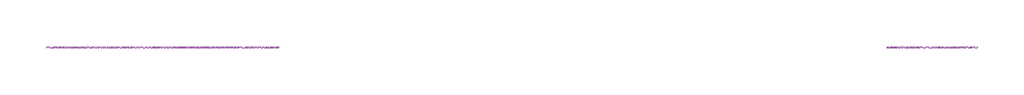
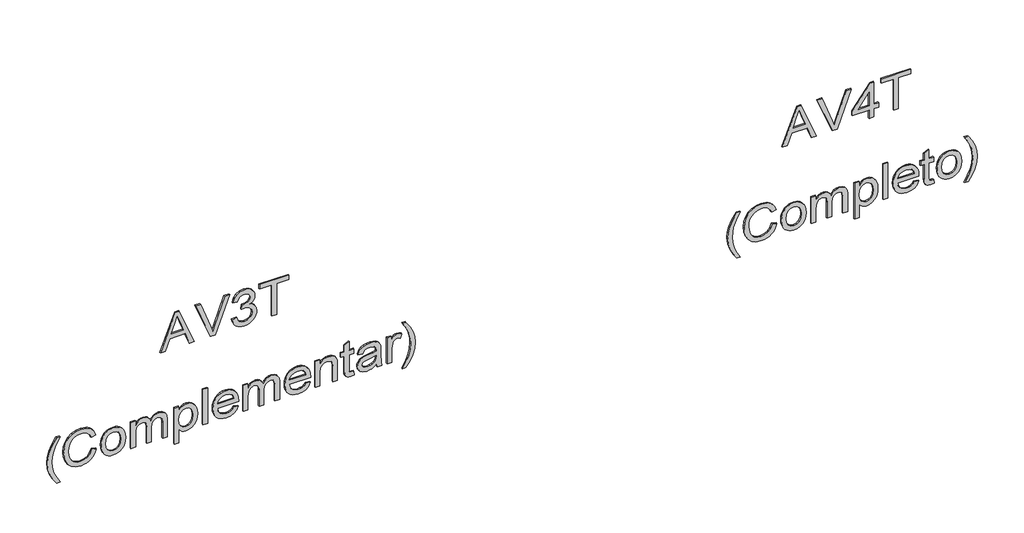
# One storey, part 10 of 14: 2 proxies.
"""IFC4 building model written with IfcOpenShell, lengths in millimetres."""

from ifc_helpers import new_model, si_unit, frame, origin, place, context, project, spatial, polyline, outline, extrude, element, save

model = new_model("IFC4")

# Units and contexts
model_context = context("Model", 3, world=origin())
ifc_project = project(units=[si_unit("LENGTHUNIT", "METRE", prefix="MILLI")], contexts=[model_context])

# Site, building, storey
site = spatial("IfcSite", under=ifc_project)
building = spatial("IfcBuilding", under=site)
storey = spatial("IfcBuildingStorey", under=building, Name="04 - Marelli - Planta Baixa - Painéis de Vidro", Elevation=36000.0)

# Proxies
placement = place(None, origin())
element("IfcBuildingElementProxy", 1, Name="300mm Arial", ObjectType="300mm Arial", at=placement, inside=storey, context=model_context, shape_type="SweptSolid", body=[
    extrude(outline(polyline([(42065.9244535, 83305.46327), (42065.9244535, 83345.2681019), (42160.1022443, 83379.7018566), (42160.1022443, 83503.8252418), (42065.9244535, 83538.3325729), (42065.9244535, 83578.1374048), (42367.293384, 83457.8399924), (42367.293384, 83425.7606824), (42065.9244535, 83305.46327)]), holes=[polyline([(42197.7733606, 83393.5342196), (42278.3395176, 83423.0383556), (42329.6222677, 83441.8003374), (42271.8647944, 83462.9167639), (42197.7733606, 83490.0664552), (42197.7733606, 83393.5342196)])]), frame((0.0, 8778.3159498, 0.0), z_axis=(0.0, 1.0, 0.0), x_axis=(0.0, 0.0, 1.0)), (0.0, 0.0, 1.0), 10.0),
    extrude(outline(polyline([(42065.9244535, 83707.4111379), (42065.9244535, 83746.333053), (42367.293384, 83861.1858119), (42367.293384, 83820.8659452), (42150.1694304, 83740.3733647), (42101.2411251, 83724.3337097), (42150.1694304, 83708.0733255), (42367.293384, 83627.8014742), (42367.293384, 83587.4816075), (42065.9244535, 83707.4111379)])), frame((0.0, 8778.3159498, 0.0), z_axis=(0.0, 1.0, 0.0), x_axis=(0.0, 0.0, 1.0)), (0.0, 0.0, 1.0), 10.0),
    extrude(outline(polyline([(42145.9755757, 83882.0815092), (42128.0827151, 83885.3326664), (42111.928097, 83891.4073178), (42097.5117213, 83900.3054636), (42084.8335881, 83912.0271036), (42074.5007025, 83926.0066195), (42067.12007, 83941.6783924), (42062.6916905, 83959.0424226), (42061.215564, 83978.09871), (42062.9446094, 83999.1829468), (42068.1317455, 84018.3633943), (42076.7769724, 84035.6400525), (42088.88029, 84051.0129214), (42103.4668111, 84063.6312738), (42119.5616484, 84072.6443827), (42137.1648019, 84078.0522481), (42156.2762716, 84079.8548698), (42183.2420218, 84076.2496263), (42205.2781533, 84065.4338956), (42221.5017493, 84047.9595009), (42231.029893, 84024.378265), (42241.9008059, 84042.3309063), (42255.9722922, 84055.2803526), (42272.4901938, 84063.1162391), (42290.7003526, 84065.7282012), (42310.2440836, 84062.9782833), (42328.7025627, 84054.7285296), (42344.7238236, 84041.2824426), (42356.9558999, 84022.9435252), (42364.709013, 84001.1925022), (42367.293384, 83977.5100988), (42362.0510656, 83944.6214484), (42346.3241103, 83917.61891), (42321.0690113, 83897.8820409), (42287.2422618, 83886.7903988), (42282.5333723, 83924.4615151), (42303.134764, 83931.1385733), (42317.8500438, 83942.9291912), (42326.6792117, 83959.0792108), (42329.6222677, 83978.834474), (42326.7068029, 83998.5529489), (42317.9604084, 84014.2982983), (42304.7626419, 84024.6173883), (42288.4930606, 84028.0570849), (42268.9585267, 84023.3114072), (42255.2365283, 84009.074374), (42247.1247303, 83988.8960465), (42244.4207976, 83966.3264861), (42244.862256, 83960.2932214), (42207.1911397, 83956.0993667), (42211.311418, 83982.5132939), (42207.4578541, 84006.2048944), (42195.8971624, 84025.3347582), (42178.4503588, 84037.9715047), (42156.9384591, 84042.1837535), (42134.2769282, 84037.9347165), (42115.5885229, 84025.1876054), (42103.0621409, 84005.2484012), (42098.8866803, 83979.4230852), (42101.9217068, 83957.4145448), (42111.0267861, 83940.5379583), (42127.0112588, 83928.1863203), (42150.6844652, 83919.7526255), (42145.9755757, 83882.0815092)])), frame((0.0, 8778.3159498, 0.0), z_axis=(0.0, 1.0, 0.0), x_axis=(0.0, 0.0, 1.0)), (0.0, 0.0, 1.0), 10.0),
    extrude(outline(polyline([(42065.9244535, 84202.2859978), (42065.9244535, 84239.9571141), (42329.6222677, 84239.9571141), (42329.6222677, 84338.8437944), (42367.293384, 84338.8437944), (42367.293384, 84103.3993175), (42329.6222677, 84103.3993175), (42329.6222677, 84202.2859978), (42065.9244535, 84202.2859978)])), frame((0.0, 8778.3159498, 0.0), z_axis=(0.0, 1.0, 0.0), x_axis=(0.0, 0.0, 1.0)), (0.0, 0.0, 1.0), 10.0),
    extrude(outline(polyline([(41249.3155348, 82469.4146478), (41249.3155348, 82497.667985), (41297.5540614, 82468.8260366), (41345.8109821, 82448.2246448), (41394.0862969, 82435.8638098), (41442.3800058, 82431.7435314), (41480.2534572, 82434.1163703), (41517.9429677, 82441.2348869), (41575.7740173, 82462.4248898), (41635.4444769, 82497.667985), (41635.4444769, 82469.4146478), (41584.934279, 82434.7233756), (41534.2033518, 82410.4063757), (41489.4137189, 82398.1559053), (41442.600735, 82394.0724151), (41389.2210575, 82399.5354628), (41337.68079, 82415.9246057), (41290.2791949, 82440.2232114), (41249.3155348, 82469.4146478)])), frame((0.0, 8778.3159498, 0.0), z_axis=(0.0, 1.0, 0.0), x_axis=(0.0, 0.0, 1.0)), (0.0, 0.0, 1.0), 10.0),
    extrude(outline(polyline([(41441.2027835, 82751.94802), (41408.9395325, 82739.761929), (41385.7261786, 82719.9790747), (41371.7098746, 82693.7766796), (41367.0377732, 82662.331966), (41370.4682728, 82635.3570187), (41380.7597717, 82610.3502401), (41397.9858461, 82589.491331), (41422.2200725, 82574.9599922), (41452.3128197, 82566.4343269), (41487.1144565, 82563.5924385), (41515.5333406, 82565.9928685), (41543.1060961, 82573.1941586), (41567.4966724, 82586.3183488), (41586.3690188, 82606.4874792), (41598.4539423, 82633.0669533), (41602.4822501, 82665.4221748), (41598.8494154, 82693.491571), (41587.9509113, 82716.3370429), (41569.1061561, 82734.1793197), (41541.6345681, 82747.2391305), (41550.6108888, 82784.9102468), (41588.4291579, 82768.2727836), (41603.751443, 82756.4706693), (41616.6824952, 82742.3463), (41626.9510013, 82726.16639), (41634.2856486, 82708.1976538), (41640.1533665, 82666.8937028), (41635.6192209, 82629.0386455), (41622.0167841, 82594.4945261), (41599.6771499, 82565.3674691), (41568.9314122, 82543.763599), (41530.9843844, 82530.3818914), (41487.0408801, 82525.9213222), (41445.3782441, 82529.8668566), (41406.4747231, 82541.7034598), (41373.3837376, 82561.0908409), (41349.1587083, 82587.6887092), (41334.3146698, 82622.3891784), (41329.3666569, 82666.0843624), (41331.0014325, 82688.50677), (41335.9057594, 82709.1265558), (41344.0796375, 82727.9437199), (41355.5230668, 82744.9582621), (41370.0796975, 82759.8344903), (41387.5931797, 82772.2367121), (41408.0635135, 82782.1649274), (41431.4906988, 82789.6191364), (41441.2027835, 82751.94802)])), frame((0.0, 8778.3159498, 0.0), z_axis=(0.0, 1.0, 0.0), x_axis=(0.0, 0.0, 1.0)), (0.0, 0.0, 1.0), 10.0),
    extrude(outline(polyline([(41444.7344506, 82827.2902527), (41418.4124939, 82828.9986047), (41395.3646869, 82834.1236607), (41375.5910296, 82842.6654208), (41359.0915221, 82854.6238849), (41346.0868936, 82869.350661), (41336.7978732, 82886.1973571), (41331.224461, 82905.1639733), (41329.3666569, 82926.2505094), (41332.7419742, 82952.8391806), (41342.8679261, 82977.2757421), (41359.1007192, 82997.8495427), (41380.7965599, 83012.849931), (41409.767267, 83022.0101927), (41447.8246594, 83025.0636133), (41472.7049786, 83023.3368672), (41494.7388108, 83018.1566288), (41513.9261561, 83009.5228982), (41530.2670145, 82997.4356754), (41543.3199275, 82982.6261259), (41552.6434368, 82965.825415), (41558.2375424, 82947.0335428), (41560.1022443, 82926.2505094), (41558.5709355, 82907.4241483), (41553.9770091, 82890.0877092), (41546.3204651, 82874.2411923), (41535.6013034, 82859.8845974), (41518.830483, 82845.6245716), (41498.095734, 82835.4388389), (41473.3970566, 82829.3273992), (41444.7344506, 82827.2902527)]), holes=[polyline([(41444.808027, 82864.961369), (41478.8830968, 82869.3207706), (41503.1173232, 82882.3989755), (41517.6026768, 82902.0806623), (41522.431128, 82926.2505094), (41517.5842827, 82950.1720361), (41503.0437468, 82969.8445258), (41479.0854319, 82983.0055042), (41445.9852494, 82987.392497), (41411.1468245, 82983.0330953), (41386.535519, 82969.9548904), (41371.9122097, 82950.3099918), (41367.0377732, 82926.2505094), (41371.8846185, 82902.0806623), (41386.4251544, 82882.3989755), (41410.7145631, 82869.3207706), (41444.808027, 82864.961369)])]), frame((0.0, 8778.3159498, 0.0), z_axis=(0.0, 1.0, 0.0), x_axis=(0.0, 0.0, 1.0)), (0.0, 0.0, 1.0), 10.0),
    extrude(outline(polyline([(41334.0755465, 83067.4436191), (41334.0755465, 83105.1147354), (41445.6909438, 83105.1147354), (41471.6082304, 83106.5494752), (41490.6461236, 83110.8536945), (41504.368122, 83118.3584872), (41514.3377241, 83129.3949471), (41520.407777, 83142.7674576), (41522.431128, 83157.2804023), (41519.3961015, 83174.359324), (41510.2910222, 83185.8648334), (41495.0974958, 83192.4039358), (41473.7971282, 83194.5836366), (41334.0755465, 83194.5836366), (41334.0755465, 83232.2547529), (41459.008272, 83232.2547529), (41487.7214617, 83235.94277), (41507.3479662, 83247.006821), (41518.6603375, 83263.6442842), (41522.431128, 83284.0525379), (41520.9596, 83295.6132296), (41516.5450161, 83305.5736346), (41509.7300021, 83313.3175506), (41501.0571841, 83318.2287752), (41469.6032735, 83321.7236542), (41334.0755465, 83321.7236542), (41334.0755465, 83359.3947705), (41485.7900813, 83359.3947705), (41518.7615051, 83355.0813541), (41541.8920855, 83342.1411049), (41555.5497046, 83321.1994223), (41560.1022443, 83292.8817058), (41557.366122, 83273.3563689), (41549.1577549, 83255.7624124), (41535.4771432, 83240.0998365), (41516.3242869, 83226.368641), (41534.7643719, 83218.1648725), (41548.5875379, 83205.6200965), (41557.2235677, 83188.8262834), (41560.1022443, 83167.8754038), (41557.27875, 83148.3224757), (41548.808267, 83131.0136279), (41535.702471, 83116.4455009), (41518.9730372, 83105.1147354), (41555.3933548, 83105.1147354), (41555.3933548, 83067.4436191), (41334.0755465, 83067.4436191)])), frame((0.0, 8778.3159498, 0.0), z_axis=(0.0, 1.0, 0.0), x_axis=(0.0, 0.0, 1.0)), (0.0, 0.0, 1.0), 10.0),
    extrude(outline(polyline([(41249.3155348, 83415.9014449), (41249.3155348, 83453.5725612), (41363.5061061, 83453.5725612), (41349.9956398, 83464.213548), (41339.0419534, 83477.4481027), (41331.785481, 83492.9083436), (41329.3666569, 83510.2263885), (41332.9810975, 83534.6445559), (41343.8244193, 83557.8671069), (41361.4459669, 83577.806311), (41385.3950848, 83592.374438), (41414.2094421, 83601.2863794), (41446.4267078, 83604.2570265), (41476.7217901, 83601.6266702), (41504.4784866, 83593.7356014), (41527.9861461, 83580.6757906), (41545.5341173, 83562.5392082), (41556.4602125, 83540.2639534), (41560.1022443, 83514.7881252), (41557.4994792, 83495.6582615), (41549.6911838, 83479.6186065), (41536.6773583, 83465.8598199), (41518.4580024, 83453.5725612), (41555.3933548, 83453.5725612), (41555.3933548, 83415.9014449), (41249.3155348, 83415.9014449)]), holes=[polyline([(41442.968617, 83453.5725612), (41477.1356573, 83457.9227658), (41502.0872537, 83470.9733796), (41517.3451594, 83489.670982), (41522.431128, 83510.9621525), (41517.6486621, 83532.1705495), (41503.3012642, 83550.1783732), (41479.3521464, 83562.4840259), (41445.7645202, 83566.5859102), (41410.7237602, 83562.3828584), (41386.2412134, 83549.773703), (41371.8386333, 83531.2784357), (41367.0377732, 83509.4170481), (41371.6730864, 83487.9051484), (41385.5790258, 83469.8697336), (41409.1970499, 83457.6468543), (41442.968617, 83453.5725612)])]), frame((0.0, 8778.3159498, 0.0), z_axis=(0.0, 1.0, 0.0), x_axis=(0.0, 0.0, 1.0)), (0.0, 0.0, 1.0), 10.0),
    extrude(outline(polyline([(83684.3081486, 8778.3159498), (83646.6370323, 8778.3159498), (83646.6370323, 8788.3159498), (83684.3081486, 8788.3159498), (83684.3081486, 8778.3159498)])), frame((0.0, 0.0, 41334.0755465), z_axis=(0.0, 0.0, 1.0), x_axis=(1.0, 0.0, 0.0)), (0.0, 0.0, 1.0), 301.3689304),
    extrude(outline(polyline([(41400.0, 83895.7667195), (41385.1191733, 83885.2085062), (41374.9104479, 83871.4865078), (41369.0059419, 83854.6007242), (41367.0377732, 83834.5511555), (41371.2868103, 83807.8889079), (41384.0339214, 83786.0275203), (41404.7640718, 83770.8799791), (41432.9622268, 83764.3592708), (41432.9622268, 83933.658565), (41443.1157698, 83933.8792942), (41469.3687487, 83932.0927672), (41492.5039277, 83926.7331864), (41512.5213067, 83917.8005517), (41529.4208859, 83905.2948631), (41542.8439802, 83889.9748773), (41552.4319047, 83872.5993508), (41558.1846594, 83853.1682837), (41560.1022443, 83831.6816759), (41558.1800609, 83809.4799975), (41552.4135106, 83789.4488228), (41542.8025935, 83771.588152), (41529.3473095, 83755.8979849), (41512.4109422, 83743.1186841), (41492.3567749, 83733.9906121), (41469.1848077, 83728.5137689), (41442.8950406, 83726.6881545), (41417.467497, 83728.4953748), (41395.0427901, 83733.9170357), (41375.62092, 83742.9531372), (41359.2018867, 83755.6036793), (41346.1489737, 83771.3352331), (41336.8254644, 83789.6143697), (41331.2313588, 83810.4410892), (41329.3666569, 83833.8153915), (41333.6892704, 83869.4723538), (41346.6571107, 83898.1579524), (41367.4608375, 83919.3939406), (41395.2911105, 83932.7020718), (41400.0, 83895.7667195)]), holes=[polyline([(41470.6333431, 83764.3592708), (41491.8693312, 83770.5488853), (41508.3412476, 83785.1446035), (41518.9086579, 83806.1414684), (41522.431128, 83831.5345231), (41518.0165441, 83859.1624609), (41504.7727922, 83881.125016), (41490.535759, 83891.1130122), (41470.6333431, 83896.2081778), (41470.6333431, 83764.3592708)])]), frame((0.0, 8778.3159498, 0.0), z_axis=(0.0, 1.0, 0.0), x_axis=(0.0, 0.0, 1.0)), (0.0, 0.0, 1.0), 10.0),
    extrude(outline(polyline([(41334.0755465, 83971.5504105), (41334.0755465, 84009.2215268), (41445.6909438, 84009.2215268), (41471.6082304, 84010.6562665), (41490.6461236, 84014.9604859), (41504.368122, 84022.4652786), (41514.3377241, 84033.5017384), (41520.407777, 84046.874249), (41522.431128, 84061.3871937), (41519.3961015, 84078.4661153), (41510.2910222, 84089.9716247), (41495.0974958, 84096.5107272), (41473.7971282, 84098.690428), (41334.0755465, 84098.690428), (41334.0755465, 84136.3615443), (41459.008272, 84136.3615443), (41487.7214617, 84140.0495613), (41507.3479662, 84151.1136123), (41518.6603375, 84167.7510755), (41522.431128, 84188.1593292), (41520.9596, 84199.7200209), (41516.5450161, 84209.6804259), (41509.7300021, 84217.4243419), (41501.0571841, 84222.3355666), (41469.6032735, 84225.8304455), (41334.0755465, 84225.8304455), (41334.0755465, 84263.5015618), (41485.7900813, 84263.5015618), (41518.7615051, 84259.1881454), (41541.8920855, 84246.2478963), (41555.5497046, 84225.3062137), (41560.1022443, 84196.9884971), (41557.366122, 84177.4631602), (41549.1577549, 84159.8692038), (41535.4771432, 84144.2066278), (41516.3242869, 84130.4754324), (41534.7643719, 84122.2716639), (41548.5875379, 84109.7268878), (41557.2235677, 84092.9330748), (41560.1022443, 84071.9821951), (41557.27875, 84052.4292671), (41548.808267, 84035.1204192), (41535.702471, 84020.5522922), (41518.9730372, 84009.2215268), (41555.3933548, 84009.2215268), (41555.3933548, 83971.5504105), (41334.0755465, 83971.5504105)])), frame((0.0, 8778.3159498, 0.0), z_axis=(0.0, 1.0, 0.0), x_axis=(0.0, 0.0, 1.0)), (0.0, 0.0, 1.0), 10.0),
    extrude(outline(polyline([(41400.0, 84474.9601327), (41385.1191733, 84464.4019194), (41374.9104479, 84450.679921), (41369.0059419, 84433.7941374), (41367.0377732, 84413.7445687), (41371.2868103, 84387.0823211), (41384.0339214, 84365.2209335), (41404.7640718, 84350.0733923), (41432.9622268, 84343.552684), (41432.9622268, 84512.8519782), (41443.1157698, 84513.0727074), (41469.3687487, 84511.2861804), (41492.5039277, 84505.9265996), (41512.5213067, 84496.9939649), (41529.4208859, 84484.4882763), (41542.8439802, 84469.1682905), (41552.4319047, 84451.792764), (41558.1846594, 84432.3616969), (41560.1022443, 84410.8750891), (41558.1800609, 84388.6734107), (41552.4135106, 84368.6422361), (41542.8025935, 84350.7815652), (41529.3473095, 84335.0913981), (41512.4109422, 84322.3120973), (41492.3567749, 84313.1840253), (41469.1848077, 84307.7071821), (41442.8950406, 84305.8815677), (41417.467497, 84307.688788), (41395.0427901, 84313.1104489), (41375.62092, 84322.1465504), (41359.2018867, 84334.7970925), (41346.1489737, 84350.5286463), (41336.8254644, 84368.8077829), (41331.2313588, 84389.6345024), (41329.3666569, 84413.0088047), (41333.6892704, 84448.6657671), (41346.6571107, 84477.3513656), (41367.4608375, 84498.5873538), (41395.2911105, 84511.895485), (41400.0, 84474.9601327)]), holes=[polyline([(41470.6333431, 84343.552684), (41491.8693312, 84349.7422985), (41508.3412476, 84364.3380167), (41518.9086579, 84385.3348816), (41522.431128, 84410.7279363), (41518.0165441, 84438.3558741), (41504.7727922, 84460.3184292), (41490.535759, 84470.3064254), (41470.6333431, 84475.4015911), (41470.6333431, 84343.552684)])]), frame((0.0, 8778.3159498, 0.0), z_axis=(0.0, 1.0, 0.0), x_axis=(0.0, 0.0, 1.0)), (0.0, 0.0, 1.0), 10.0),
    extrude(outline(polyline([(41334.0755465, 84550.7438237), (41334.0755465, 84588.41494), (41451.5034793, 84588.41494), (41486.2131456, 84592.7099623), (41498.5877762, 84598.0787401), (41507.6422718, 84605.5950291), (41518.7339139, 84624.4029961), (41522.431128, 84646.4667188), (41520.7848561, 84660.3634612), (41515.8460403, 84672.3288231), (41508.1481095, 84681.6638287), (41498.2244927, 84687.6695023), (41464.8943839, 84692.0105098), (41334.0755465, 84692.0105098), (41334.0755465, 84729.6816261), (41469.9711555, 84729.6816261), (41506.391473, 84727.6950633), (41534.0929872, 84716.4010861), (41544.6328064, 84706.3027253), (41552.9285454, 84692.1208744), (41558.3088196, 84675.1155292), (41560.1022443, 84656.5466855), (41557.8765582, 84635.5682147), (41551.1995, 84617.2201002), (41540.0710697, 84601.5023419), (41524.4912672, 84588.41494), (41555.3933548, 84588.41494), (41555.3933548, 84550.7438237), (41334.0755465, 84550.7438237)])), frame((0.0, 8778.3159498, 0.0), z_axis=(0.0, 1.0, 0.0), x_axis=(0.0, 0.0, 1.0)), (0.0, 0.0, 1.0), 10.0),
    extrude(outline(polyline([(41365.4926689, 84861.5305332), (41367.0377732, 84845.1229962), (41369.576159, 84832.2839146), (41376.4555523, 84825.8459797), (41395.8797217, 84823.8594169), (41517.7222385, 84823.8594169), (41517.7222385, 84861.5305332), (41555.3933548, 84861.5305332), (41555.3933548, 84823.8594169), (41631.3241986, 84823.8594169), (41609.1777025, 84786.1883006), (41555.3933548, 84786.1883006), (41555.3933548, 84757.9349633), (41517.7222385, 84757.9349633), (41517.7222385, 84786.1883006), (41394.7760757, 84786.1883006), (41367.7919313, 84787.3287348), (41352.0281878, 84790.7500373), (41342.849532, 84796.967243), (41335.6206508, 84806.4953867), (41330.9301554, 84819.9782618), (41329.3666569, 84838.0596619), (41332.9719005, 84866.2394227), (41365.4926689, 84861.5305332)])), frame((0.0, 8778.3159498, 0.0), z_axis=(0.0, 1.0, 0.0), x_axis=(0.0, 0.0, 1.0)), (0.0, 0.0, 1.0), 10.0),
    extrude(outline(polyline([(41362.3288837, 85040.4683356), (41334.0755465, 85049.8861147), (41334.0755465, 85087.557231), (41365.7501862, 85080.0524383), (41431.1963932, 85078.1394519), (41478.0645594, 85078.1394519), (41511.0267861, 85076.300042), (41525.1442577, 85071.7566993), (41536.5945848, 85064.7485473), (41545.856014, 85054.181137), (41553.406792, 85038.9600195), (41558.4283812, 85018.772495), (41560.1022443, 84993.3058639), (41558.207652, 84966.7539809), (41552.5238752, 84943.6050063), (41543.3452194, 84924.6774777), (41530.9659903, 84910.7899323), (41514.7791825, 84901.0318624), (41494.1777908, 84894.49276), (41489.4689012, 84932.1638763), (41505.1314772, 84939.6502749), (41515.1838527, 84950.3372468), (41520.6193092, 84966.0090198), (41522.431128, 84988.4498215), (41519.7088012, 85012.693245), (41511.5418209, 85030.0940634), (41500.5421493, 85037.8747676), (41483.7299421, 85040.4683356), (41475.3422326, 85040.2476064), (41468.3524747, 85013.429009), (41462.3927864, 84974.9117641), (41456.7274037, 84942.3174193), (41444.3665686, 84915.9402803), (41434.8752131, 84905.3360818), (41422.7351073, 84896.9943575), (41408.5532564, 84891.5864922), (41392.9366657, 84889.7838704), (41367.6079903, 84894.5571393), (41347.2457219, 84908.876946), (41333.8364232, 84932.0994969), (41329.3666569, 84963.5809987), (41331.224461, 84984.4491048), (41336.7978732, 85003.9376535), (41346.896234, 85022.469709), (41362.3288837, 85040.4683356)]), holes=[polyline([(41437.6711163, 85040.4683356), (41427.0025384, 85040.2476064), (41410.0799667, 85038.7576844), (41397.8662844, 85034.2879181), (41386.0112871, 85024.2079515), (41376.0508821, 85009.7134008), (41369.2910505, 84991.8343359), (41367.0377732, 84971.6008261), (41369.0795183, 84952.5169476), (41375.2047535, 84938.6753876), (41384.3834093, 84930.2600869), (41395.5854161, 84927.4549867), (41410.0799667, 84932.6053347), (41420.0127805, 84947.2838263), (41426.1196217, 84979.69423), (41437.6711163, 85040.4683356)])]), frame((0.0, 8778.3159498, 0.0), z_axis=(0.0, 1.0, 0.0), x_axis=(0.0, 0.0, 1.0)), (0.0, 0.0, 1.0), 10.0),
    extrude(outline(polyline([(41334.0755465, 85129.9372369), (41334.0755465, 85167.6083532), (41450.3998333, 85167.6083532), (41473.3556698, 85169.1350635), (41494.39852, 85173.7151943), (41506.1339556, 85179.1690449), (41514.9999117, 85187.2900399), (41520.5733239, 85197.3424154), (41522.431128, 85208.5904074), (41520.4997475, 85221.8341593), (41514.7056061, 85235.0779111), (41548.4771733, 85247.6594753), (41557.1959765, 85228.603188), (41560.1022443, 85209.8412062), (41558.2812284, 85197.5539476), (41552.8181808, 85186.2967585), (41541.6345681, 85175.0763577), (41522.6518572, 85162.8994636), (41555.3933548, 85162.8994636), (41555.3933548, 85129.9372369), (41334.0755465, 85129.9372369)])), frame((0.0, 8778.3159498, 0.0), z_axis=(0.0, 1.0, 0.0), x_axis=(0.0, 0.0, 1.0)), (0.0, 0.0, 1.0), 10.0),
    extrude(outline(polyline([(41249.3155348, 85280.6217021), (41290.2791949, 85309.6751827), (41337.68079, 85334.0013796), (41389.2210575, 85350.4732959), (41442.600735, 85355.9639347), (41489.4137189, 85351.8804446), (41534.2033518, 85339.6299741), (41584.934279, 85315.3129742), (41635.4444769, 85280.6217021), (41635.4444769, 85252.3683649), (41575.1854061, 85287.8321892), (41546.8400984, 85299.8067481), (41517.2807801, 85308.8014629), (41479.9775458, 85315.9199795), (41442.3800058, 85318.2928184), (41394.0862969, 85314.1725401), (41345.8109821, 85301.811705), (41297.5540614, 85281.2103133), (41249.3155348, 85252.3683649), (41249.3155348, 85280.6217021)])), frame((0.0, 8778.3159498, 0.0), z_axis=(0.0, 1.0, 0.0), x_axis=(0.0, 0.0, 1.0)), (0.0, 0.0, 1.0), 10.0),
])
element("IfcBuildingElementProxy", 2, Name="300mm Arial", ObjectType="300mm Arial", at=placement, inside=storey, context=model_context, shape_type="SweptSolid", body=[
    extrude(outline(polyline([(42065.9244535, 88310.1721595), (42065.9244535, 88349.9769914), (42160.1022443, 88384.4107462), (42160.1022443, 88508.5341313), (42065.9244535, 88543.0414625), (42065.9244535, 88582.8462944), (42367.293384, 88462.5488819), (42367.293384, 88430.469572), (42065.9244535, 88310.1721595)]), holes=[polyline([(42197.7733606, 88398.2431092), (42278.3395176, 88427.7472452), (42329.6222677, 88446.5092269), (42271.8647944, 88467.6256535), (42197.7733606, 88494.7753447), (42197.7733606, 88398.2431092)])]), frame((0.0, 8778.3159498, 0.0), z_axis=(0.0, 1.0, 0.0), x_axis=(0.0, 0.0, 1.0)), (0.0, 0.0, 1.0), 10.0),
    extrude(outline(polyline([(42065.9244535, 88712.1200275), (42065.9244535, 88751.0419425), (42367.293384, 88865.8947014), (42367.293384, 88825.5748348), (42150.1694304, 88745.0822542), (42101.2411251, 88729.0425992), (42150.1694304, 88712.782215), (42367.293384, 88632.5103637), (42367.293384, 88592.190497), (42065.9244535, 88712.1200275)])), frame((0.0, 8778.3159498, 0.0), z_axis=(0.0, 1.0, 0.0), x_axis=(0.0, 0.0, 1.0)), (0.0, 0.0, 1.0), 10.0),
    extrude(outline(polyline([(42065.9244535, 89009.2215268), (42065.9244535, 89046.8926431), (42136.5577966, 89046.8926431), (42136.5577966, 89084.5637594), (42174.2289129, 89084.5637594), (42174.2289129, 89046.8926431), (42362.5844944, 89046.8926431), (42362.5844944, 89018.6393058), (42174.2289129, 88872.6637302), (42136.5577966, 88872.6637302), (42136.5577966, 89009.2215268), (42065.9244535, 89009.2215268)]), holes=[polyline([(42174.2289129, 89009.2215268), (42174.2289129, 88919.0168615), (42290.6267762, 89009.2215268), (42174.2289129, 89009.2215268)])]), frame((0.0, 8778.3159498, 0.0), z_axis=(0.0, 1.0, 0.0), x_axis=(0.0, 0.0, 1.0)), (0.0, 0.0, 1.0), 10.0),
    extrude(outline(polyline([(42065.9244535, 89206.9948874), (42065.9244535, 89244.6660037), (42329.6222677, 89244.6660037), (42329.6222677, 89343.552684), (42367.293384, 89343.552684), (42367.293384, 89108.1082071), (42329.6222677, 89108.1082071), (42329.6222677, 89206.9948874), (42065.9244535, 89206.9948874)])), frame((0.0, 8778.3159498, 0.0), z_axis=(0.0, 1.0, 0.0), x_axis=(0.0, 0.0, 1.0)), (0.0, 0.0, 1.0), 10.0),
    extrude(outline(polyline([(41249.3155348, 87945.0124911), (41249.3155348, 87973.2658283), (41297.5540614, 87944.4238799), (41345.8109821, 87923.8224882), (41394.0862969, 87911.4616532), (41442.3800058, 87907.3413748), (41480.2534572, 87909.7142137), (41517.9429677, 87916.8327303), (41575.7740173, 87938.0227332), (41635.4444769, 87973.2658283), (41635.4444769, 87945.0124911), (41584.934279, 87910.321219), (41534.2033518, 87886.0042191), (41489.4137189, 87873.7537486), (41442.600735, 87869.6702585), (41389.2210575, 87875.1333061), (41337.68079, 87891.522449), (41290.2791949, 87915.8210548), (41249.3155348, 87945.0124911)])), frame((0.0, 8778.3159498, 0.0), z_axis=(0.0, 1.0, 0.0), x_axis=(0.0, 0.0, 1.0)), (0.0, 0.0, 1.0), 10.0),
    extrude(outline(polyline([(41441.2027835, 88227.5458634), (41408.9395325, 88215.3597723), (41385.7261786, 88195.576918), (41371.7098746, 88169.3745229), (41367.0377732, 88137.9298094), (41370.4682728, 88110.9548621), (41380.7597717, 88085.9480835), (41397.9858461, 88065.0891743), (41422.2200725, 88050.5578355), (41452.3128197, 88042.0321703), (41487.1144565, 88039.1902819), (41515.5333406, 88041.5907119), (41543.1060961, 88048.792002), (41567.4966724, 88061.9161921), (41586.3690188, 88082.0853225), (41598.4539423, 88108.6647967), (41602.4822501, 88141.0200181), (41598.8494154, 88169.0894144), (41587.9509113, 88191.9348863), (41569.1061561, 88209.777163), (41541.6345681, 88222.8369739), (41550.6108888, 88260.5080902), (41588.4291579, 88243.8706269), (41603.751443, 88232.0685127), (41616.6824952, 88217.9441433), (41626.9510013, 88201.7642333), (41634.2856486, 88183.7954971), (41640.1533665, 88142.4915461), (41635.6192209, 88104.6364888), (41622.0167841, 88070.0923695), (41599.6771499, 88040.9653125), (41568.9314122, 88019.3614423), (41530.9843844, 88005.9797348), (41487.0408801, 88001.5191656), (41445.3782441, 88005.4647), (41406.4747231, 88017.3013032), (41373.3837376, 88036.6886843), (41349.1587083, 88063.2865526), (41334.3146698, 88097.9870218), (41329.3666569, 88141.6822057), (41331.0014325, 88164.1046133), (41335.9057594, 88184.7243992), (41344.0796375, 88203.5415632), (41355.5230668, 88220.5561055), (41370.0796975, 88235.4323337), (41387.5931797, 88247.8345554), (41408.0635135, 88257.7627708), (41431.4906988, 88265.2169797), (41441.2027835, 88227.5458634)])), frame((0.0, 8778.3159498, 0.0), z_axis=(0.0, 1.0, 0.0), x_axis=(0.0, 0.0, 1.0)), (0.0, 0.0, 1.0), 10.0),
    extrude(outline(polyline([(41444.7344506, 88302.888096), (41418.4124939, 88304.596448), (41395.3646869, 88309.7215041), (41375.5910296, 88318.2632642), (41359.0915221, 88330.2217283), (41346.0868936, 88344.9485044), (41336.7978732, 88361.7952005), (41331.224461, 88380.7618166), (41329.3666569, 88401.8483527), (41332.7419742, 88428.4370239), (41342.8679261, 88452.8735855), (41359.1007192, 88473.447386), (41380.7965599, 88488.4477744), (41409.767267, 88497.6080361), (41447.8246594, 88500.6614566), (41472.7049786, 88498.9347105), (41494.7388108, 88493.7544722), (41513.9261561, 88485.1207416), (41530.2670145, 88473.0335188), (41543.3199275, 88458.2239692), (41552.6434368, 88441.4232584), (41558.2375424, 88422.6313862), (41560.1022443, 88401.8483527), (41558.5709355, 88383.0219916), (41553.9770091, 88365.6855526), (41546.3204651, 88349.8390357), (41535.6013034, 88335.4824408), (41518.830483, 88321.222415), (41498.095734, 88311.0366822), (41473.3970566, 88304.9252426), (41444.7344506, 88302.888096)]), holes=[polyline([(41444.808027, 88340.5592123), (41478.8830968, 88344.918614), (41503.1173232, 88357.9968189), (41517.6026768, 88377.6785056), (41522.431128, 88401.8483527), (41517.5842827, 88425.7698795), (41503.0437468, 88445.4423692), (41479.0854319, 88458.6033475), (41445.9852494, 88462.9903403), (41411.1468245, 88458.6309387), (41386.535519, 88445.5527338), (41371.9122097, 88425.9078352), (41367.0377732, 88401.8483527), (41371.8846185, 88377.6785056), (41386.4251544, 88357.9968189), (41410.7145631, 88344.918614), (41444.808027, 88340.5592123)])]), frame((0.0, 8778.3159498, 0.0), z_axis=(0.0, 1.0, 0.0), x_axis=(0.0, 0.0, 1.0)), (0.0, 0.0, 1.0), 10.0),
    extrude(outline(polyline([(41334.0755465, 88543.0414625), (41334.0755465, 88580.7125788), (41445.6909438, 88580.7125788), (41471.6082304, 88582.1473186), (41490.6461236, 88586.4515379), (41504.368122, 88593.9563306), (41514.3377241, 88604.9927905), (41520.407777, 88618.365301), (41522.431128, 88632.8782457), (41519.3961015, 88649.9571673), (41510.2910222, 88661.4626767), (41495.0974958, 88668.0017792), (41473.7971282, 88670.18148), (41334.0755465, 88670.18148), (41334.0755465, 88707.8525963), (41459.008272, 88707.8525963), (41487.7214617, 88711.5406133), (41507.3479662, 88722.6046643), (41518.6603375, 88739.2421276), (41522.431128, 88759.6503812), (41520.9596, 88771.2110729), (41516.5450161, 88781.171478), (41509.7300021, 88788.915394), (41501.0571841, 88793.8266186), (41469.6032735, 88797.3214975), (41334.0755465, 88797.3214975), (41334.0755465, 88834.9926138), (41485.7900813, 88834.9926138), (41518.7615051, 88830.6791975), (41541.8920855, 88817.7389483), (41555.5497046, 88796.7972657), (41560.1022443, 88768.4795491), (41557.366122, 88748.9542122), (41549.1577549, 88731.3602558), (41535.4771432, 88715.6976799), (41516.3242869, 88701.9664844), (41534.7643719, 88693.7627159), (41548.5875379, 88681.2179399), (41557.2235677, 88664.4241268), (41560.1022443, 88643.4732472), (41557.27875, 88623.9203191), (41548.808267, 88606.6114712), (41535.702471, 88592.0433442), (41518.9730372, 88580.7125788), (41555.3933548, 88580.7125788), (41555.3933548, 88543.0414625), (41334.0755465, 88543.0414625)])), frame((0.0, 8778.3159498, 0.0), z_axis=(0.0, 1.0, 0.0), x_axis=(0.0, 0.0, 1.0)), (0.0, 0.0, 1.0), 10.0),
    extrude(outline(polyline([(41249.3155348, 88891.4992883), (41249.3155348, 88929.1704046), (41363.5061061, 88929.1704046), (41349.9956398, 88939.8113913), (41339.0419534, 88953.0459461), (41331.785481, 88968.5061869), (41329.3666569, 88985.8242319), (41332.9810975, 89010.2423993), (41343.8244193, 89033.4649502), (41361.4459669, 89053.4041544), (41385.3950848, 89067.9722814), (41414.2094421, 89076.8842227), (41446.4267078, 89079.8548698), (41476.7217901, 89077.2245136), (41504.4784866, 89069.3334448), (41527.9861461, 89056.2736339), (41545.5341173, 89038.1370516), (41556.4602125, 89015.8617968), (41560.1022443, 88990.3859686), (41557.4994792, 88971.2561049), (41549.6911838, 88955.2164499), (41536.6773583, 88941.4576633), (41518.4580024, 88929.1704046), (41555.3933548, 88929.1704046), (41555.3933548, 88891.4992883), (41249.3155348, 88891.4992883)]), holes=[polyline([(41442.968617, 88929.1704046), (41477.1356573, 88933.5206092), (41502.0872537, 88946.571223), (41517.3451594, 88965.2688254), (41522.431128, 88986.5599959), (41517.6486621, 89007.7683929), (41503.3012642, 89025.7762165), (41479.3521464, 89038.0818693), (41445.7645202, 89042.1837535), (41410.7237602, 89037.9807017), (41386.2412134, 89025.3715464), (41371.8386333, 89006.876279), (41367.0377732, 88985.0148915), (41371.6730864, 88963.5029918), (41385.5790258, 88945.467577), (41409.1970499, 88933.2446977), (41442.968617, 88929.1704046)])]), frame((0.0, 8778.3159498, 0.0), z_axis=(0.0, 1.0, 0.0), x_axis=(0.0, 0.0, 1.0)), (0.0, 0.0, 1.0), 10.0),
    extrude(outline(polyline([(89159.905992, 8778.3159498), (89122.2348757, 8778.3159498), (89122.2348757, 8788.3159498), (89159.905992, 8788.3159498), (89159.905992, 8778.3159498)])), frame((0.0, 0.0, 41334.0755465), z_axis=(0.0, 0.0, 1.0), x_axis=(1.0, 0.0, 0.0)), (0.0, 0.0, 1.0), 301.3689304),
    extrude(outline(polyline([(41400.0, 89371.3645628), (41385.1191733, 89360.8063496), (41374.9104479, 89347.0843511), (41369.0059419, 89330.1985676), (41367.0377732, 89310.1489988), (41371.2868103, 89283.4867512), (41384.0339214, 89261.6253637), (41404.7640718, 89246.4778225), (41432.9622268, 89239.9571141), (41432.9622268, 89409.2564083), (41443.1157698, 89409.4771375), (41469.3687487, 89407.6906106), (41492.5039277, 89402.3310298), (41512.5213067, 89393.3983951), (41529.4208859, 89380.8927065), (41542.8439802, 89365.5727207), (41552.4319047, 89348.1971942), (41558.1846594, 89328.766127), (41560.1022443, 89307.2795193), (41558.1800609, 89285.0778408), (41552.4135106, 89265.0466662), (41542.8025935, 89247.1859953), (41529.3473095, 89231.4958282), (41512.4109422, 89218.7165274), (41492.3567749, 89209.5884554), (41469.1848077, 89204.1116122), (41442.8950406, 89202.2859978), (41417.467497, 89204.0932181), (41395.0427901, 89209.514879), (41375.62092, 89218.5509805), (41359.2018867, 89231.2015227), (41346.1489737, 89246.9330765), (41336.8254644, 89265.2122131), (41331.2313588, 89286.0389326), (41329.3666569, 89309.4132348), (41333.6892704, 89345.0701972), (41346.6571107, 89373.7557958), (41367.4608375, 89394.991784), (41395.2911105, 89408.2999151), (41400.0, 89371.3645628)]), holes=[polyline([(41470.6333431, 89239.9571141), (41491.8693312, 89246.1467287), (41508.3412476, 89260.7424469), (41518.9086579, 89281.7393117), (41522.431128, 89307.1323665), (41518.0165441, 89334.7603043), (41504.7727922, 89356.7228594), (41490.535759, 89366.7108556), (41470.6333431, 89371.8060212), (41470.6333431, 89239.9571141)])]), frame((0.0, 8778.3159498, 0.0), z_axis=(0.0, 1.0, 0.0), x_axis=(0.0, 0.0, 1.0)), (0.0, 0.0, 1.0), 10.0),
    extrude(outline(polyline([(41365.4926689, 89527.199376), (41367.0377732, 89510.791839), (41369.576159, 89497.9527574), (41376.4555523, 89491.5148224), (41395.8797217, 89489.5282597), (41517.7222385, 89489.5282597), (41517.7222385, 89527.199376), (41555.3933548, 89527.199376), (41555.3933548, 89489.5282597), (41631.3241986, 89489.5282597), (41609.1777025, 89451.8571434), (41555.3933548, 89451.8571434), (41555.3933548, 89423.6038061), (41517.7222385, 89423.6038061), (41517.7222385, 89451.8571434), (41394.7760757, 89451.8571434), (41367.7919313, 89452.9975775), (41352.0281878, 89456.4188801), (41342.849532, 89462.6360858), (41335.6206508, 89472.1642295), (41330.9301554, 89485.6471046), (41329.3666569, 89503.7285047), (41332.9719005, 89531.9082655), (41365.4926689, 89527.199376)])), frame((0.0, 8778.3159498, 0.0), z_axis=(0.0, 1.0, 0.0), x_axis=(0.0, 0.0, 1.0)), (0.0, 0.0, 1.0), 10.0),
    extrude(outline(polyline([(41444.7344506, 89555.4527132), (41418.4124939, 89557.1610652), (41395.3646869, 89562.2861213), (41375.5910296, 89570.8278813), (41359.0915221, 89582.7863454), (41346.0868936, 89597.5131216), (41336.7978732, 89614.3598177), (41331.224461, 89633.3264338), (41329.3666569, 89654.4129699), (41332.7419742, 89681.0016411), (41342.8679261, 89705.4382026), (41359.1007192, 89726.0120032), (41380.7965599, 89741.0123916), (41409.767267, 89750.1726532), (41447.8246594, 89753.2260738), (41472.7049786, 89751.4993277), (41494.7388108, 89746.3190893), (41513.9261561, 89737.6853588), (41530.2670145, 89725.598136), (41543.3199275, 89710.7885864), (41552.6434368, 89693.9878755), (41558.2375424, 89675.1960034), (41560.1022443, 89654.4129699), (41558.5709355, 89635.5866088), (41553.9770091, 89618.2501698), (41546.3204651, 89602.4036528), (41535.6013034, 89588.047058), (41518.830483, 89573.7870321), (41498.095734, 89563.6012994), (41473.3970566, 89557.4898597), (41444.7344506, 89555.4527132)]), holes=[polyline([(41444.808027, 89593.1238295), (41478.8830968, 89597.4832312), (41503.1173232, 89610.5614361), (41517.6026768, 89630.2431228), (41522.431128, 89654.4129699), (41517.5842827, 89678.3344966), (41503.0437468, 89698.0069863), (41479.0854319, 89711.1679647), (41445.9852494, 89715.5549575), (41411.1468245, 89711.1955559), (41386.535519, 89698.1173509), (41371.9122097, 89678.4724524), (41367.0377732, 89654.4129699), (41371.8846185, 89630.2431228), (41386.4251544, 89610.5614361), (41410.7145631, 89597.4832312), (41444.808027, 89593.1238295)])]), frame((0.0, 8778.3159498, 0.0), z_axis=(0.0, 1.0, 0.0), x_axis=(0.0, 0.0, 1.0)), (0.0, 0.0, 1.0), 10.0),
    extrude(outline(polyline([(41249.3155348, 89805.0238587), (41290.2791949, 89834.0773393), (41337.68079, 89858.4035362), (41389.2210575, 89874.8754526), (41442.600735, 89880.3660913), (41489.4137189, 89876.2826012), (41534.2033518, 89864.0321308), (41584.934279, 89839.7151309), (41635.4444769, 89805.0238587), (41635.4444769, 89776.7705215), (41575.1854061, 89812.2343458), (41546.8400984, 89824.2089048), (41517.2807801, 89833.2036196), (41479.9775458, 89840.3221362), (41442.3800058, 89842.694975), (41394.0862969, 89838.5746967), (41345.8109821, 89826.2138617), (41297.5540614, 89805.6124699), (41249.3155348, 89776.7705215), (41249.3155348, 89805.0238587)])), frame((0.0, 8778.3159498, 0.0), z_axis=(0.0, 1.0, 0.0), x_axis=(0.0, 0.0, 1.0)), (0.0, 0.0, 1.0), 10.0),
])

save(model, "model.ifc")
